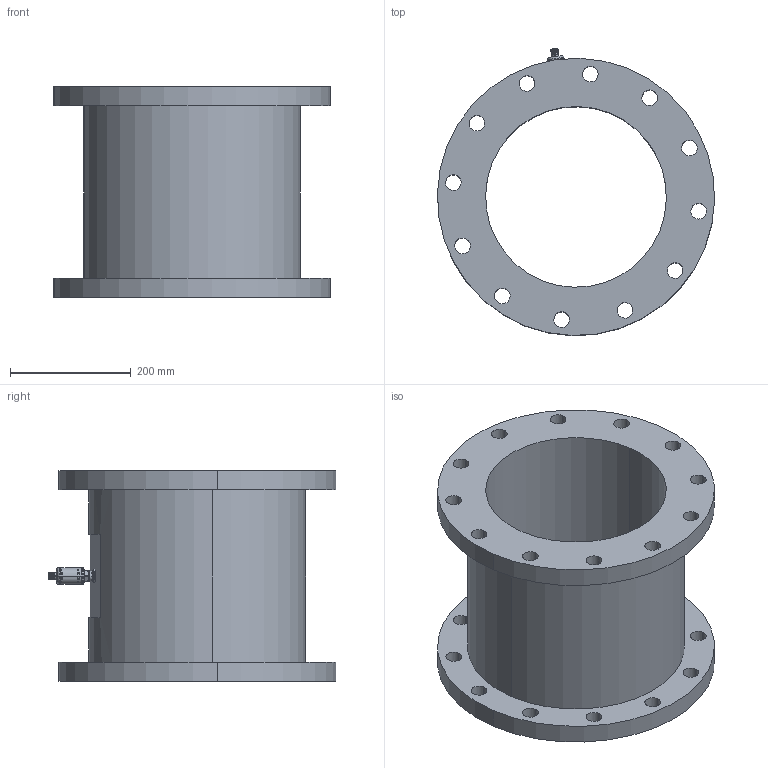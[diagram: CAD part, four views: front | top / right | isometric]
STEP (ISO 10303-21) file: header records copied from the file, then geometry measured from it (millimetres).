
FILE_DESCRIPTION (( 'STEP AP214' ), '1' );
FILE_NAME ('BFW1C300-J.STEP', '2026-01-20T07:08:53', ( '' ), ( '' ), 'SwSTEP 2.0', 'SolidWorks 2023', '' );
FILE_SCHEMA (( 'AUTOMOTIVE_DESIGN' ));
Length unit declared in the file: millimetre
Products named in the file (8): DN300法兰-华东; 连接管; 探头; 压力变送器; 垫片; M16螺母; 壳体; BFW1C300-J
Assembly tree (7 placements, depth 3):
  BFW1C300-J
    压力变送器
      壳体
      垫片
      连接管
      探头
    M16螺母
    DN300法兰-华东
Bounding box: 459.81 x 476.92 x 350 mm (x, y, z)
Volume: 14516428.8 mm3; surface area: 1122305.6 mm2
Topology: 6 solids, 6 shells, 283 faces, 736 edges, 479 vertices
Faces by surface type: cylinder 176, plane 47, cone 46, torus 8, bspline 6
Entity records: 13170 total; most frequent: CARTESIAN_POINT 6133, ORIENTED_EDGE 1472, DIRECTION 1394, EDGE_CURVE 736, AXIS2_PLACEMENT_3D 570, VERTEX_POINT 479, EDGE_LOOP 365, FACE_OUTER_BOUND 283
